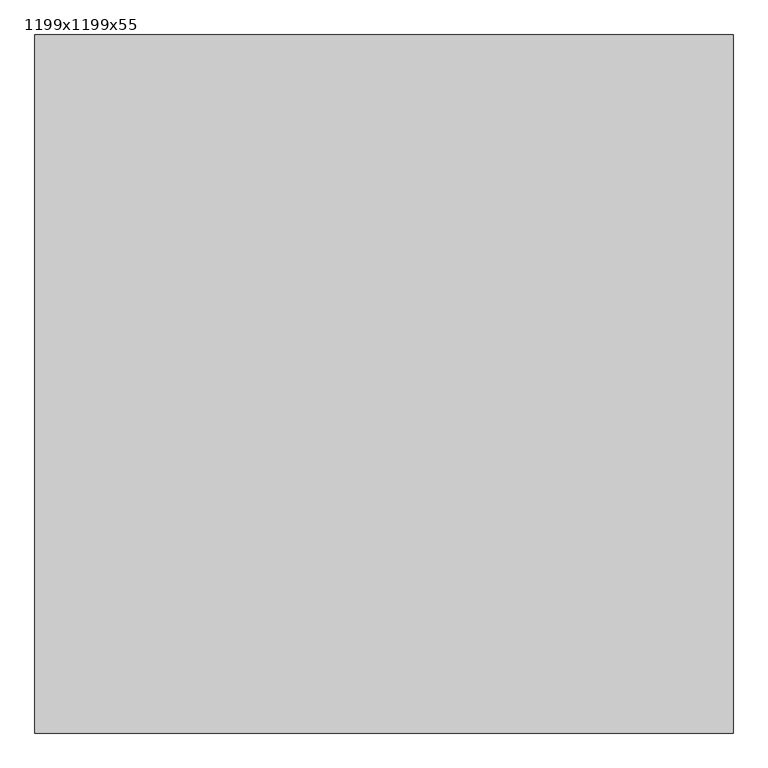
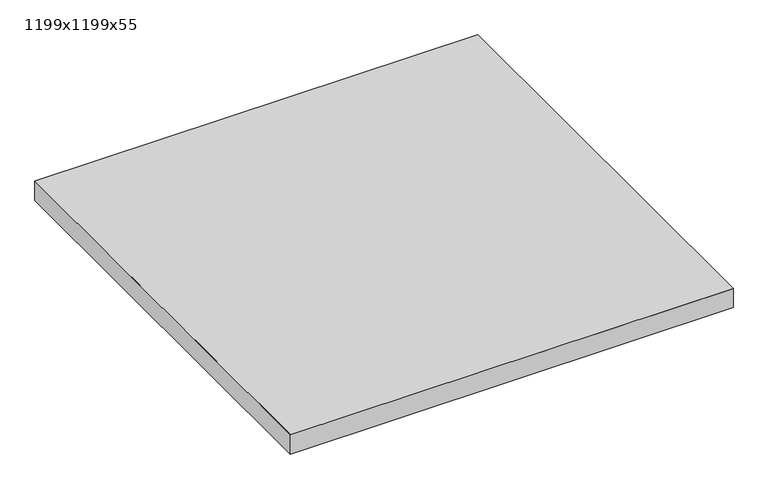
"""IFC4 building model written with IfcOpenShell, lengths in millimetres: proxy geometry, Texaa Panneaux Stereo fixés contre support par système magnétique séparés ou groupés au plafond : 1199x1199x55."""

from ifc_helpers import new_model, si_unit, frame, origin, place, context, project, spatial, polyline, outline, extrude, faceted_brep, source, transform, mapped, element, save


def proxy_1199x1199x55_df9f5cee(model_context):
    return source(origin(), model_context, "Body", "SolidModel", [
        extrude(outline(polyline([(-598.5, -598.5), (-598.5, 598.5), (598.5, 598.5), (598.5, -598.5), (-598.5, -598.5)])), frame((0.0, 0.0, 21.0), z_axis=(0.0, 0.0, 1.0), x_axis=(1.0, 0.0, 0.0)), (0.0, 0.0, 1.0), 53.0),
        faceted_brep([(599.5, 599.5, 75.0), (-599.5, 599.5, 75.0), (-599.5, -599.5, 75.0), (599.5, -599.5, 75.0), (-599.5, -599.5, 20.0), (-599.5, 599.5, 20.0), (599.5, 599.5, 20.0), (599.5, -599.5, 20.0), (-549.5, 549.5, 20.0), (-549.5, -549.5, 20.0), (549.5, -549.5, 20.0), (549.5, 549.5, 20.0), (549.5, 549.5, 21.0), (-549.5, 549.5, 21.0), (549.5, -549.5, 21.0), (-549.5, -549.5, 21.0), (-598.5, -598.5, 74.0), (-598.5, 598.5, 74.0), (598.5, 598.5, 74.0), (598.5, -598.5, 74.0), (-598.5, -598.5, 21.0), (598.5, -598.5, 21.0), (598.5, 598.5, 21.0), (-598.5, 598.5, 21.0)], [[[0, 1, 2, 3]], [[4, 5, 6, 7], [8, 9, 10, 11]], [[4, 2, 1, 5]], [[5, 1, 0, 6]], [[3, 7, 6, 0]], [[2, 4, 7, 3]], [[8, 11, 12, 13]], [[11, 10, 14, 12]], [[10, 9, 15, 14]], [[13, 15, 9, 8]], [[16, 17, 18, 19]], [[20, 21, 22, 23], [12, 14, 15, 13]], [[23, 17, 16, 20]], [[22, 18, 17, 23]], [[18, 22, 21, 19]], [[19, 21, 20, 16]]]),
    ])


if __name__ == "__main__":
    model = new_model("IFC4")
    model_context = context("Model", 3, world=origin())
    ifc_project = project(units=[si_unit("LENGTHUNIT", "METRE", prefix="MILLI")], contexts=[model_context])
    site = spatial("IfcSite", under=ifc_project)
    building = spatial("IfcBuilding", under=site)
    placement = place(None, origin())
    proxy_1199x1199x55_shape = proxy_1199x1199x55_df9f5cee(model_context)
    element("IfcBuildingElementProxy", 1, Name="Texaa Panneaux Stereo fixés contre support par système magnétique séparés ou groupés au plafond : 1199x1199x55", ObjectType="Texaa Panneaux Stereo fixés contre support par système magnétique séparés ou groupés au plafond : 1199x1199x55", at=placement, inside=building, context=model_context, shape_type="MappedRepresentation", body=[
        mapped(proxy_1199x1199x55_shape, transform((0.0, 0.0, 0.0), x_axis=(1.0, 0.0, 0.0), y_axis=(0.0, 1.0, 0.0), z_axis=(0.0, 0.0, 1.0))),
    ])
    save(model, "model.ifc")
